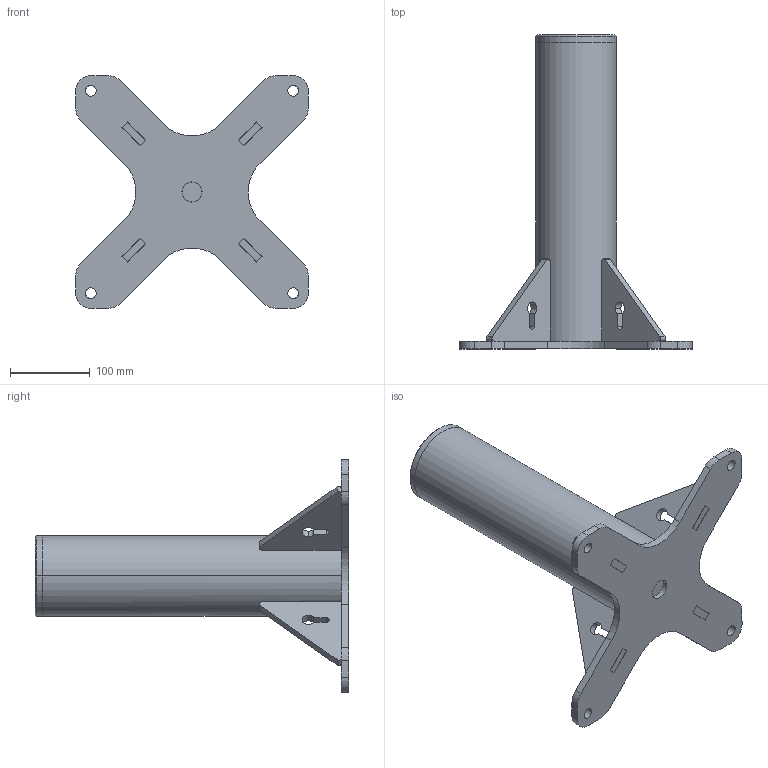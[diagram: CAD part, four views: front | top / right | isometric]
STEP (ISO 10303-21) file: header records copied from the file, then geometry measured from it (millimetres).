
FILE_DESCRIPTION (( 'STEP AP203' ), '1' );
FILE_NAME ('OZPED2.STEP', '2022-03-02T20:35:37', ( '' ), ( '' ), 'SwSTEP 2.0', 'SolidWorks 2021', '' );
FILE_SCHEMA (( 'CONFIG_CONTROL_DESIGN' ));
Length unit declared in the file: inch
Products named in the file (7): SXB7001; SXB7004; SXB7002; OZPED2; SXB7003; SXB7000; SXB7005
Assembly tree (9 placements, depth 3):
  OZPED2
    SXB7000
      SXB7001
      SXB7003
      SXB7004
      SXB7002  x4
    SXB7005
Bounding box: 292.1 x 393.7 x 292.1 mm (x, y, z)
Volume: 1539653 mm3; surface area: 464132.7 mm2
Topology: 8 solids, 8 shells, 187 faces, 495 edges, 326 vertices
Faces by surface type: cylinder 88, plane 87, cone 10, torus 2
Entity records: 4720 total; most frequent: CARTESIAN_POINT 739, DIRECTION 705, ORIENTED_EDGE 630, EDGE_CURVE 315, AXIS2_PLACEMENT_3D 258, VERTEX_POINT 206, LINE 189, VECTOR 189
